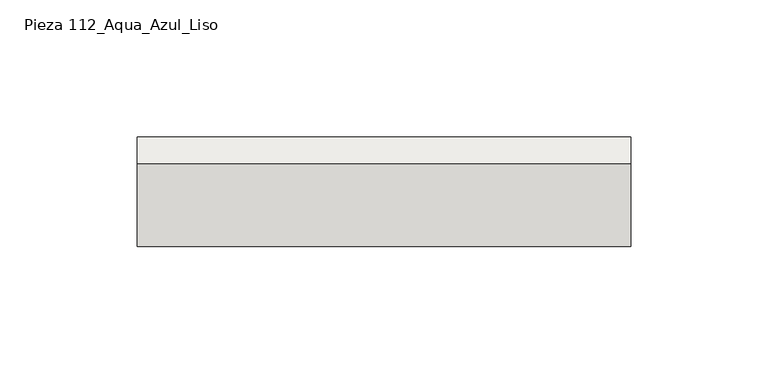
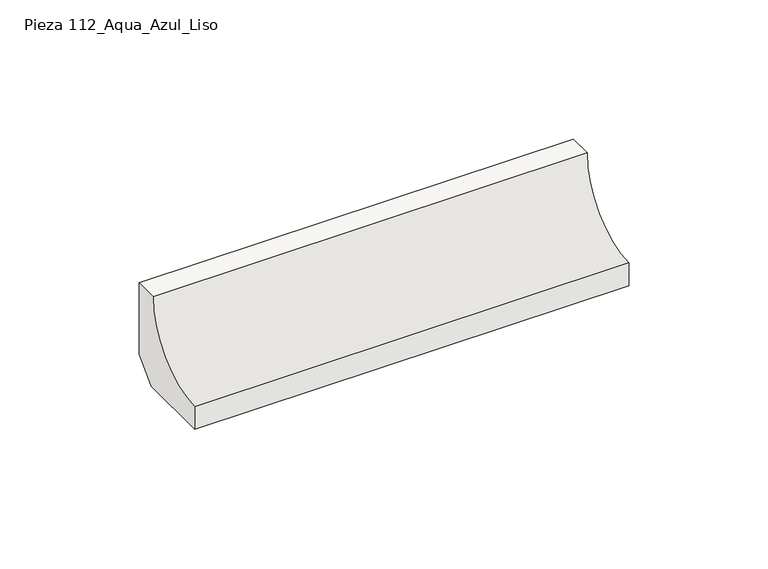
"""IFC4 building model written with IfcOpenShell, lengths in millimetres: slab geometry, ROSA GRES_112 : Pieza 112_Aqua_Azul_Liso."""

from ifc_helpers import new_model, si_unit, point, frame, frame_2d, origin, place, context, project, spatial, polyline, circle_curve, trimmed, segment, composite_curve, outline, extrude, source, transform, mapped, element, save


def pieza_112_aqua_azul_liso_3965653e(model_context):
    return source(origin(), model_context, "Body", "SweptSolid", [
        extrude(outline(composite_curve([segment(polyline([(0.0, 8.7114978), (-8.7114978, 0.0), (-40.0, 0.0), (-40.0, 9.9734114)]), True, "CONTINUOUS"), segment(trimmed(circle_curve(frame_2d((-39.9955547, 39.9955547)), 30.0221435), [point((-40.0, 9.9734114))], [point((-9.9734114, 40.0))], True, "CARTESIAN"), True, "CONTINUOUS"), segment(polyline([(-9.9734114, 40.0), (0.0, 40.0), (0.0, 8.7114978)]), True, "CONTINUOUS")], self_intersect=False)), frame((0.0, 0.0, 0.0), z_axis=(1.0, 0.0, 0.0), x_axis=(0.0, 1.0, 0.0)), (0.0, 0.0, 1.0), 180.0),
    ])


if __name__ == "__main__":
    model = new_model("IFC4")
    model_context = context("Model", 3, world=origin())
    ifc_project = project(units=[si_unit("LENGTHUNIT", "METRE", prefix="MILLI")], contexts=[model_context])
    site = spatial("IfcSite", under=ifc_project)
    building = spatial("IfcBuilding", under=site)
    placement = place(None, origin())
    pieza_112_aqua_azul_liso_shape = pieza_112_aqua_azul_liso_3965653e(model_context)
    element("IfcSlab", 1, ObjectType="ROSA GRES_112 : Pieza 112_Aqua_Azul_Liso", at=placement, inside=building, context=model_context, shape_type="MappedRepresentation", body=[
        mapped(pieza_112_aqua_azul_liso_shape, transform((0.0, 0.0, 0.0), x_axis=(1.0, 0.0, 0.0), y_axis=(0.0, 1.0, 0.0), z_axis=(0.0, 0.0, 1.0))),
    ])
    save(model, "model.ifc")
